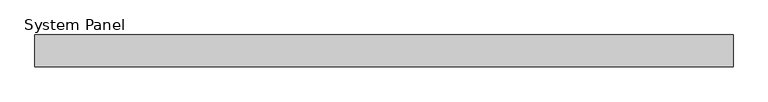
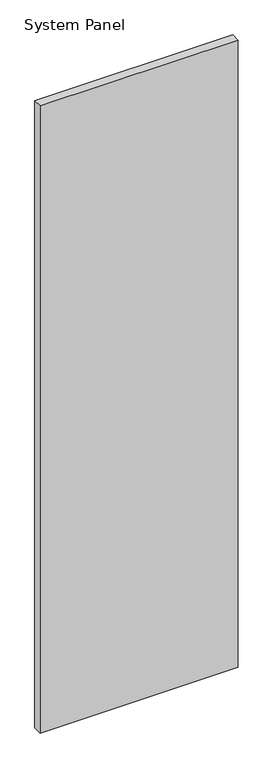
"""IFC4 building model written with IfcOpenShell, lengths in millimetres: plate geometry, System Panel : MetecnoPanel_50mm_Plain_Surfmist."""

from ifc_helpers import new_model, si_unit, origin, origin_with_axes, place, context, project, spatial, polyline, outline, extrude, source, transform, mapped, element, save


def system_panel_136fc1d7(model_context):
    return source(origin(), model_context, "Body", "SweptSolid", [
        extrude(outline(polyline([(550.0, -50.0), (-550.0, -50.0), (-550.0, 0.0), (550.0, 0.0), (550.0, -50.0)])), origin_with_axes(), (0.0, 0.0, 1.0), 3679.9704237),
    ])


if __name__ == "__main__":
    model = new_model("IFC4")
    model_context = context("Model", 3, world=origin())
    ifc_project = project(units=[si_unit("LENGTHUNIT", "METRE", prefix="MILLI")], contexts=[model_context])
    site = spatial("IfcSite", under=ifc_project)
    building = spatial("IfcBuilding", under=site)
    placement = place(None, origin())
    system_panel_shape = system_panel_136fc1d7(model_context)
    element("IfcPlate", 1, ObjectType="System Panel : MetecnoPanel_50mm_Plain_Surfmist", at=placement, inside=building, context=model_context, shape_type="MappedRepresentation", body=[
        mapped(system_panel_shape, transform((0.0, 0.0, 0.0), x_axis=(1.0, 0.0, 0.0), y_axis=(0.0, 1.0, 0.0), z_axis=(0.0, 0.0, 1.0))),
    ])
    save(model, "model.ifc")
